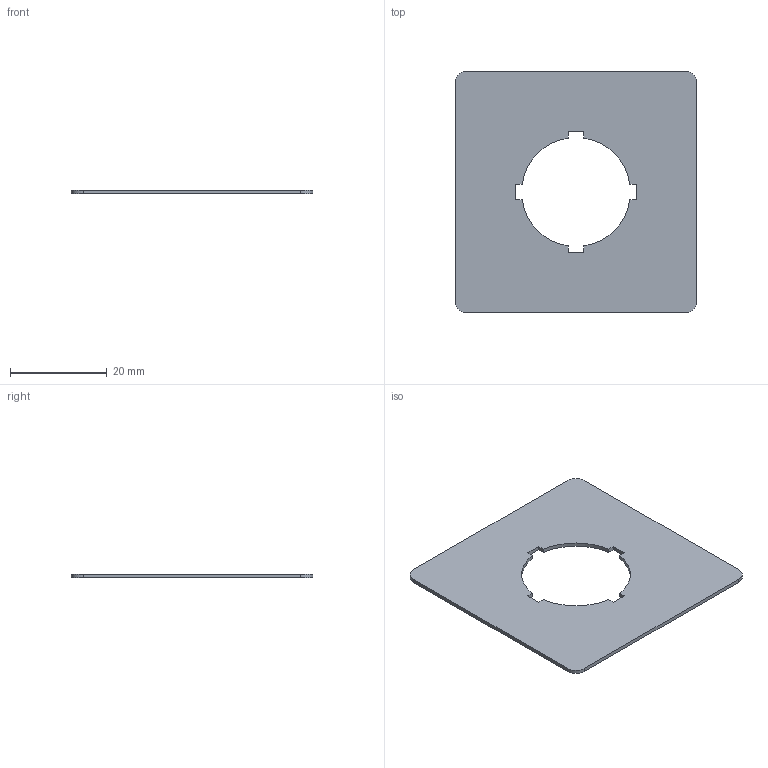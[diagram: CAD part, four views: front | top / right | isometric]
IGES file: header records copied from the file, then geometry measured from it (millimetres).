
Start section: Data from XPlus IGES,  Spatial Corp. Copyright (c) 1999-2004
Global section: file name: 216484.igs; native system:  By Spatial Corp.; preprocessor: XPlus ACIS/IGES 3.0; author: Noname; organization: Noname; date: 20120614.151934; units: millimetre
Bounding box: 50 x 50 x 0.8 mm (x, y, z)
Surface area: 4382.9 mm2 (no closed solid volume)
Topology: 0 solids, 0 shells, 26 faces, 144 edges, 144 vertices
Faces by surface type: extrusion 18, revolution 8
